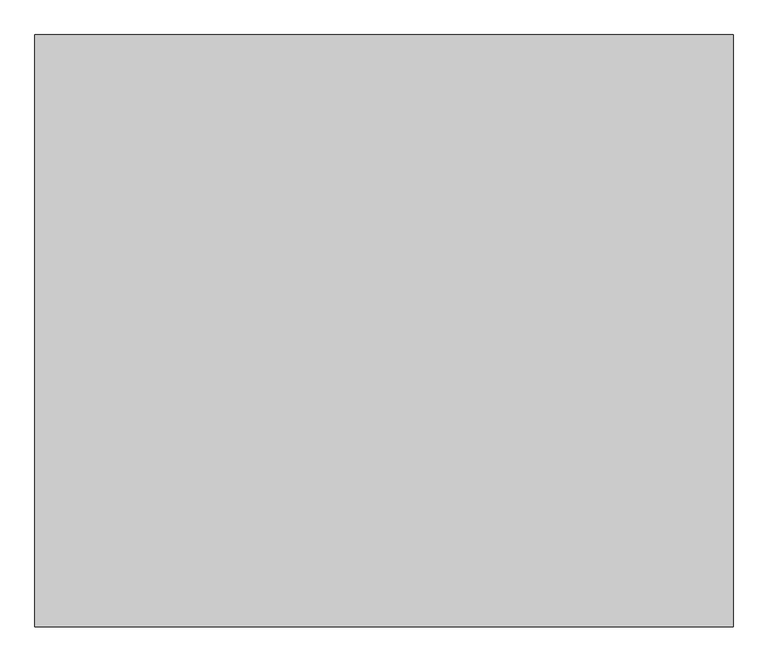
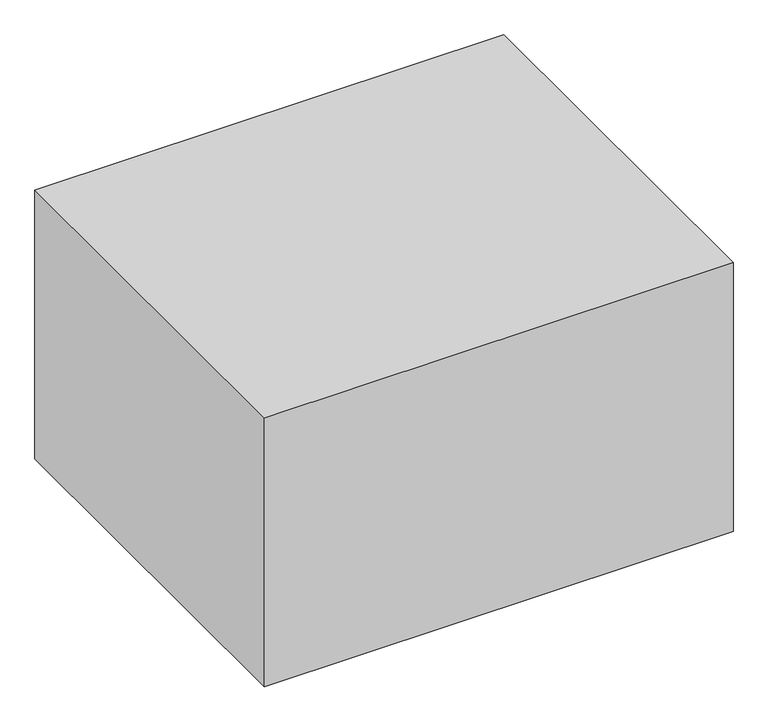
"""IFC4 building model written with IfcOpenShell, lengths in millimetres: proxy geometry, Gebaude2 : Gebaude."""

from ifc_helpers import new_model, si_unit, frame, origin, place, context, project, spatial, polyline, outline, extrude, source, transform, mapped, element, save


def generic_models_00590af2(model_context):
    return source(origin(), model_context, "Body", "SweptSolid", [
        extrude(outline(polyline([(2073.9710847, -5825.8978657), (2073.9710847, -17353.5588268), (-11511.8892616, -17353.5588268), (-11511.8892616, -5825.8978657), (2073.9710847, -5825.8978657)])), frame((0.0, 0.0, -3207.8117287), z_axis=(0.0, 0.0, 1.0), x_axis=(1.0, 0.0, 0.0)), (0.0, 0.0, 1.0), 8242.8864957),
    ])


if __name__ == "__main__":
    model = new_model("IFC4")
    model_context = context("Model", 3, world=origin())
    ifc_project = project(units=[si_unit("LENGTHUNIT", "METRE", prefix="MILLI")], contexts=[model_context])
    site = spatial("IfcSite", under=ifc_project)
    building = spatial("IfcBuilding", under=site)
    placement = place(None, origin())
    generic_models_shape = generic_models_00590af2(model_context)
    element("IfcBuildingElementProxy", 1, Name="Gebaude2 : Gebaude", ObjectType="Gebaude2 : Gebaude", at=placement, inside=building, context=model_context, shape_type="MappedRepresentation", body=[
        mapped(generic_models_shape, transform((0.0, 0.0, 0.0), x_axis=(1.0, 0.0, 0.0), y_axis=(0.0, 1.0, 0.0), z_axis=(0.0, 0.0, 1.0))),
    ])
    save(model, "model.ifc")
